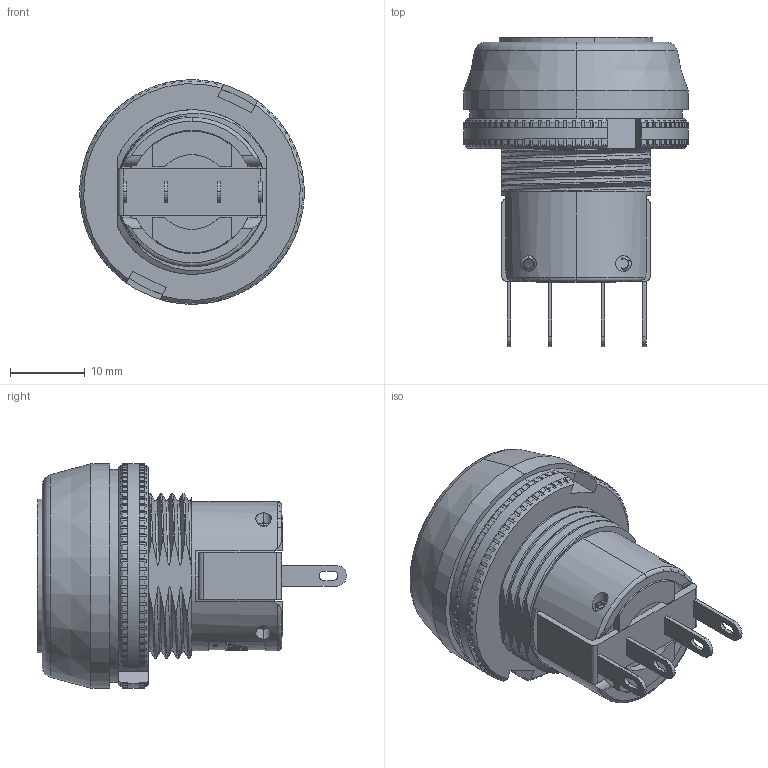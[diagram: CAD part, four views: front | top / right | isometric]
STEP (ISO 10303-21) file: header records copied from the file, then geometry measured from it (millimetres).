
FILE_DESCRIPTION (( 'STEP AP214' ), '1' );
FILE_NAME ('76-949121.STEP', '2015-06-01T08:19:29', ( 'Admin' ), ( 'Microsoft' ), 'SwSTEP 2.0', 'SolidWorks 2015', '' );
FILE_SCHEMA (( 'AUTOMOTIVE_DESIGN' ));
Length unit declared in the file: millimetre
Products named in the file (2): 76-949121
Bounding box: 30.01 x 41.35 x 30.02 mm (x, y, z)
Volume: 15087 mm3; surface area: 4707.2 mm2
Topology: 1 solids, 1 shells, 869 faces, 2525 edges, 1675 vertices
Faces by surface type: plane 404, cylinder 393, bspline 36, cone 25, torus 9, sphere 2
Entity records: 49651 total; most frequent: CARTESIAN_POINT 17821, ORIENTED_EDGE 5050, DIRECTION 4387, EDGE_CURVE 2525, VERTEX_POINT 1675, AXIS2_PLACEMENT_3D 1599, LINE 1189, VECTOR 1189
